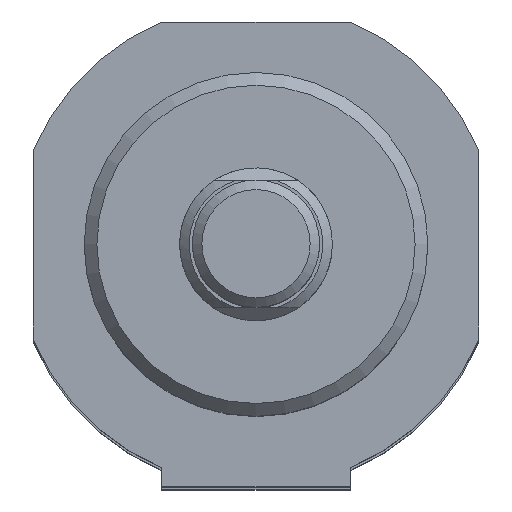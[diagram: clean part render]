
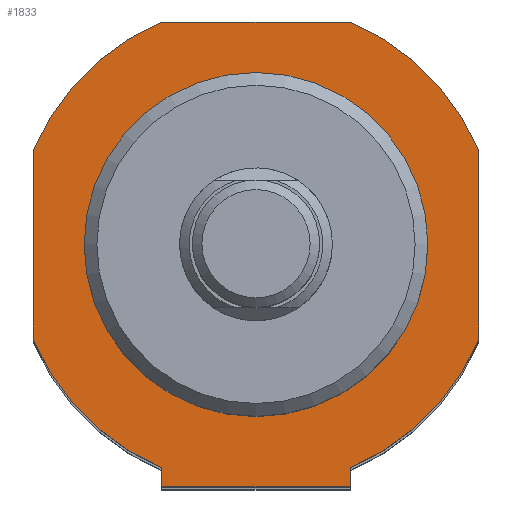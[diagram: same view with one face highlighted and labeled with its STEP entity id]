
A CAD part, top view. The second image highlights one B-rep face of the part: STEP entity #1833.
In plain terms, the highlighted planar face has unit normal (0, 0, 1).
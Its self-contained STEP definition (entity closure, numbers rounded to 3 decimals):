
#898=CARTESIAN_POINT('',(7.399,-19.0,174.0));
#899=VERTEX_POINT('',#898);
#900=CARTESIAN_POINT('',(-7.399,-19.0,174.0));
#901=VERTEX_POINT('',#900);
#902=CARTESIAN_POINT('',(7.399,-19.0,174.0));
#903=DIRECTION('',(-1.0,0.0,0.0));
#904=VECTOR('',#903,14.799);
#905=LINE('',#902,#904);
#906=EDGE_CURVE('',#899,#901,#905,.T.);
#1054=CARTESIAN_POINT('',(-7.399,-17.5,174.0));
#1055=VERTEX_POINT('',#1054);
#1069=CARTESIAN_POINT('',(-7.399,-17.5,174.0));
#1070=DIRECTION('',(0.0,-1.0,0.0));
#1071=VECTOR('',#1070,1.5);
#1072=LINE('',#1069,#1071);
#1073=EDGE_CURVE('',#1055,#901,#1072,.T.);
#1085=CARTESIAN_POINT('',(7.399,-17.5,174.0));
#1086=VERTEX_POINT('',#1085);
#1093=CARTESIAN_POINT('',(7.399,-17.5,174.0));
#1094=DIRECTION('',(0.0,-1.0,0.0));
#1095=VECTOR('',#1094,1.5);
#1096=LINE('',#1093,#1095);
#1097=EDGE_CURVE('',#1086,#899,#1096,.T.);
#1561=CARTESIAN_POINT('',(13.5,0.,174.0));
#1562=VERTEX_POINT('',#1561);
#1563=CARTESIAN_POINT('',(0.,0.,174.0));
#1564=DIRECTION('',(0.0,0.0,-1.0));
#1565=DIRECTION('',(-1.0,0.0,0.0));
#1566=AXIS2_PLACEMENT_3D('',#1563,#1564,#1565);
#1567=CIRCLE('',#1566,13.5);
#1568=EDGE_CURVE('',#1562,#1562,#1567,.T.);
#1653=CARTESIAN_POINT('',(-7.399,17.5,174.0));
#1654=VERTEX_POINT('',#1653);
#1655=CARTESIAN_POINT('',(7.399,17.5,174.0));
#1656=VERTEX_POINT('',#1655);
#1657=CARTESIAN_POINT('',(-7.399,17.5,174.0));
#1658=DIRECTION('',(1.0,0.0,0.0));
#1659=VECTOR('',#1658,14.799);
#1660=LINE('',#1657,#1659);
#1661=EDGE_CURVE('',#1654,#1656,#1660,.T.);
#1684=CARTESIAN_POINT('',(17.5,7.399,174.0));
#1685=VERTEX_POINT('',#1684);
#1686=CARTESIAN_POINT('',(0.,0.,174.));
#1687=DIRECTION('',(0.,0.,-1.0));
#1688=DIRECTION('',(0.921,0.389,0.));
#1689=AXIS2_PLACEMENT_3D('',#1686,#1687,#1688);
#1690=CIRCLE('',#1689,19.0);
#1691=EDGE_CURVE('',#1656,#1685,#1690,.T.);
#1709=CARTESIAN_POINT('',(17.5,-7.399,174.0));
#1710=VERTEX_POINT('',#1709);
#1711=CARTESIAN_POINT('',(17.5,7.399,174.0));
#1712=DIRECTION('',(0.0,-1.0,0.0));
#1713=VECTOR('',#1712,14.799);
#1714=LINE('',#1711,#1713);
#1715=EDGE_CURVE('',#1685,#1710,#1714,.T.);
#1733=CARTESIAN_POINT('',(0.,0.,174.));
#1734=DIRECTION('',(0.,0.,-1.));
#1735=DIRECTION('',(0.389,-0.921,0.));
#1736=AXIS2_PLACEMENT_3D('',#1733,#1734,#1735);
#1737=CIRCLE('',#1736,19.0);
#1738=EDGE_CURVE('',#1710,#1086,#1737,.T.);
#1751=CARTESIAN_POINT('',(-17.5,-7.399,174.0));
#1752=VERTEX_POINT('',#1751);
#1753=CARTESIAN_POINT('',(0.,0.,174.));
#1754=DIRECTION('',(0.,0.,-1.0));
#1755=DIRECTION('',(-0.921,-0.389,0.));
#1756=AXIS2_PLACEMENT_3D('',#1753,#1754,#1755);
#1757=CIRCLE('',#1756,19.0);
#1758=EDGE_CURVE('',#1055,#1752,#1757,.T.);
#1776=CARTESIAN_POINT('',(-17.5,7.399,174.0));
#1777=VERTEX_POINT('',#1776);
#1778=CARTESIAN_POINT('',(-17.5,-7.399,174.0));
#1779=DIRECTION('',(0.0,1.0,0.0));
#1780=VECTOR('',#1779,14.799);
#1781=LINE('',#1778,#1780);
#1782=EDGE_CURVE('',#1752,#1777,#1781,.T.);
#1800=CARTESIAN_POINT('',(0.,0.,174.));
#1801=DIRECTION('',(0.,0.,-1.));
#1802=DIRECTION('',(-0.389,0.921,0.));
#1803=AXIS2_PLACEMENT_3D('',#1800,#1801,#1802);
#1804=CIRCLE('',#1803,19.0);
#1805=EDGE_CURVE('',#1777,#1654,#1804,.T.);
#1813=CARTESIAN_POINT('',(0.,0.,174.0));
#1814=DIRECTION('',(0.0,0.0,1.0));
#1815=DIRECTION('',(1.0,0.0,0.0));
#1816=AXIS2_PLACEMENT_3D('',#1813,#1814,#1815);
#1817=PLANE('',#1816);
#1818=ORIENTED_EDGE('',*,*,#1661,.F.);
#1819=ORIENTED_EDGE('',*,*,#1805,.F.);
#1820=ORIENTED_EDGE('',*,*,#1782,.F.);
#1821=ORIENTED_EDGE('',*,*,#1758,.F.);
#1822=ORIENTED_EDGE('',*,*,#1073,.T.);
#1823=ORIENTED_EDGE('',*,*,#906,.F.);
#1824=ORIENTED_EDGE('',*,*,#1097,.F.);
#1825=ORIENTED_EDGE('',*,*,#1738,.F.);
#1826=ORIENTED_EDGE('',*,*,#1715,.F.);
#1827=ORIENTED_EDGE('',*,*,#1691,.F.);
#1828=EDGE_LOOP('',(#1818,#1819,#1820,#1821,#1822,#1823,#1824,#1825,#1826,#1827));
#1829=FACE_OUTER_BOUND('',#1828,.T.);
#1830=ORIENTED_EDGE('',*,*,#1568,.T.);
#1831=EDGE_LOOP('',(#1830));
#1832=FACE_BOUND('',#1831,.T.);
#1833=ADVANCED_FACE('',(#1829,#1832),#1817,.T.);
